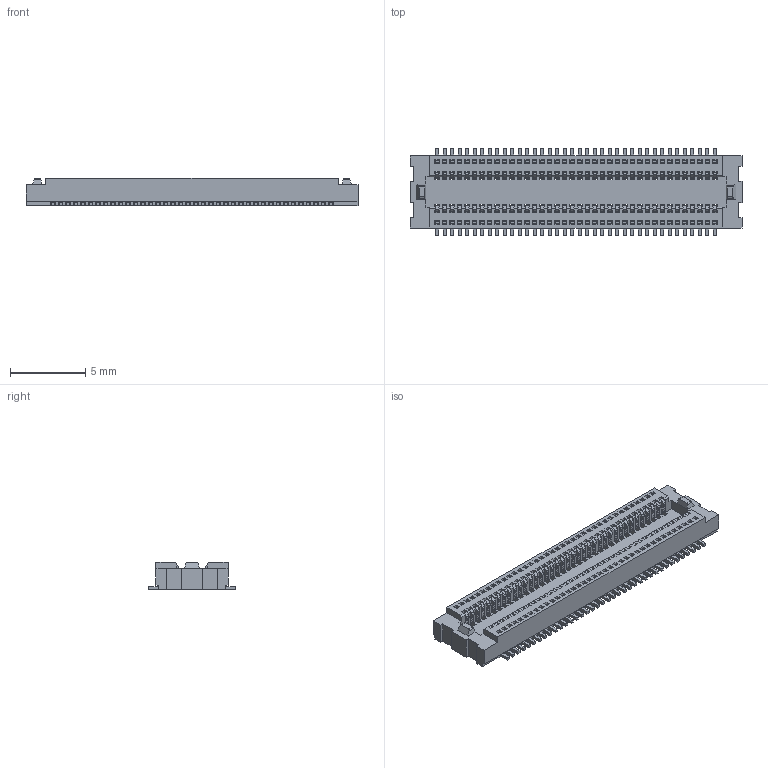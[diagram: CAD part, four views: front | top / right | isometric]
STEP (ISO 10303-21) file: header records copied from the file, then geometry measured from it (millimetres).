
FILE_DESCRIPTION(('CATIA V5 STEP Exchange'),'2;1');
FILE_NAME('F:\黄富鸿\板对板\0.5 单槽\无柱\母座\H1.85\HC-PBB05-1-76-F-H1.85-G1-R-06 (BTB0.5 单槽 母座 立贴 编带)-HCTL.stp','2026-01-21T08:01:26+00:00',('none'),('none'),'CATIA Version 5 Release 20 GA (IN-10)','CATIA V5 STEP AP203','none');
FILE_SCHEMA(('CONFIG_CONTROL_DESIGN'));
Products named in the file (1): Part2
Bounding box: 22.1 x 5.76 x 1.85 mm (x, y, z)
Volume: 119.8 mm3; surface area: 969.2 mm2
Topology: 77 solids, 77 shells, 3398 faces, 10412 edges, 6940 vertices
Faces by surface type: plane 2330, cylinder 1068
Entity records: 98644 total; most frequent: ORIENTED_EDGE 20824, CARTESIAN_POINT 17685, DIRECTION 10912, EDGE_CURVE 10412, VECTOR 8276, LINE 8276, VERTEX_POINT 6940, EDGE_LOOP 3474
